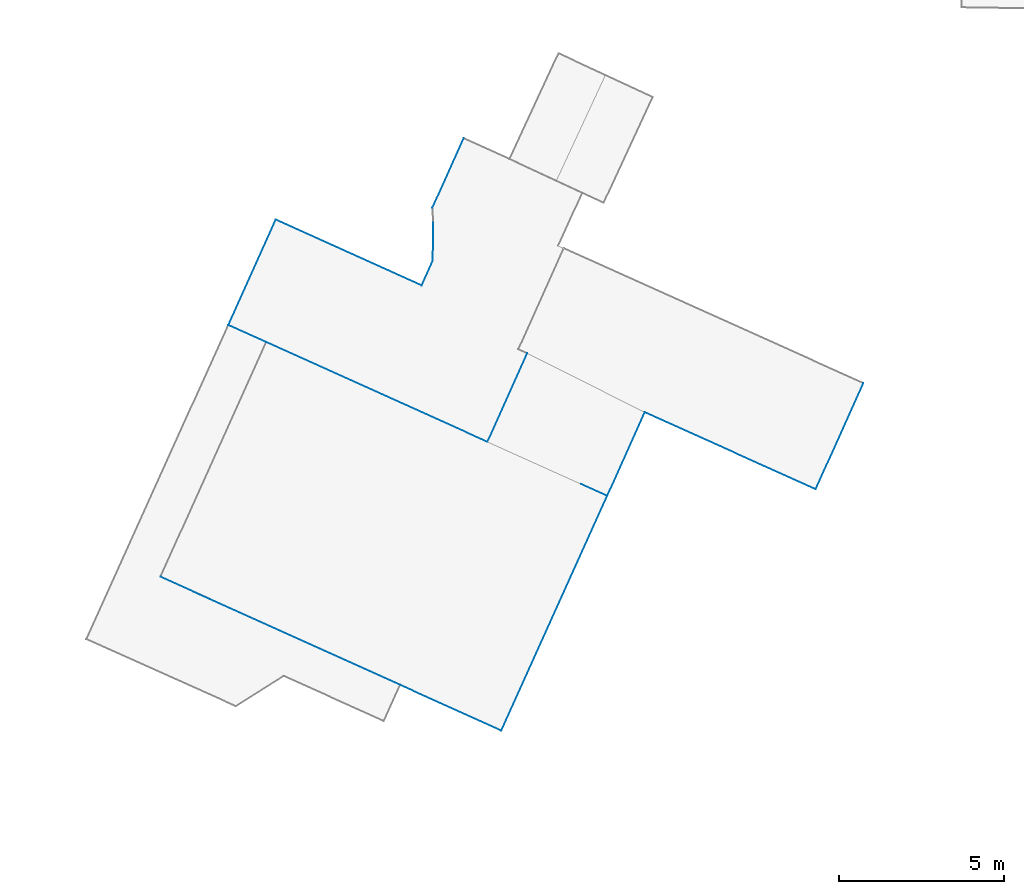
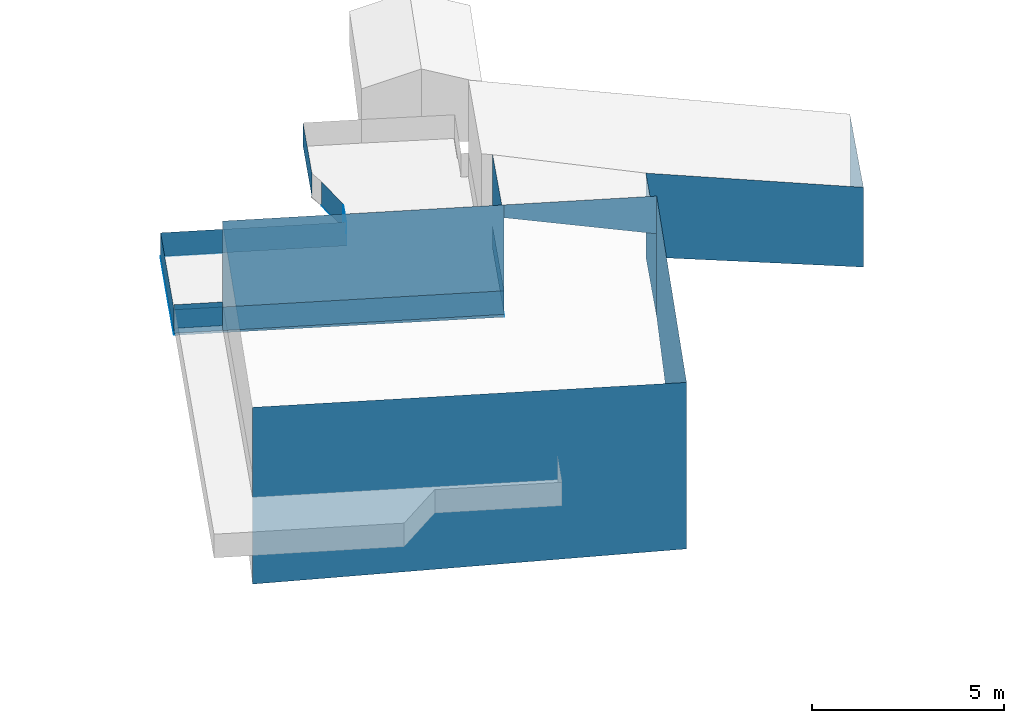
# Not in any storey, part 58 of 136: 32 walls.
"""IFC4 building model written with IfcOpenShell, lengths in metres."""

import ifcopenshell
import ifcopenshell.guid

model = None  # the IFC model being written
_history = None  # IfcOwnerHistory: only IFC2X3 demands one
_inside = {}  # id of a spatial element -> (the spatial element, [elements in it])
_under = {}  # id of a project, library or spatial element -> (it, [spatial elements below it])
_declared = {}  # id of a project -> (the project, [libraries it declares])
_typed = {}  # id of a type object -> (the type object, [elements of that type])
_made_of = {}  # id of a material, layer set ... -> (it, [elements and type objects made of it])


def new_model(schema):
    """Start an empty IFC model of exactly this schema.

    Asked for "IFC4X3", IfcOpenShell would pick the latest addendum, in which some entities
    have other attributes; the version numbers below select the first issue.
    IFC2X3 requires an IfcOwnerHistory on every rooted entity: one is made here for all.
    """
    global model, _history
    if schema == "IFC4X3":
        model = ifcopenshell.file(schema_version=(4, 3, 0, 0))
    else:
        model = ifcopenshell.file(schema=schema)
    _inside.clear()
    _under.clear()
    _declared.clear()
    _typed.clear()
    _made_of.clear()
    _history = None
    if model.schema == "IFC2X3":
        org = make("IfcOrganization", Name="unknown")
        user = make(
            "IfcPersonAndOrganization",
            ThePerson=make("IfcPerson", FamilyName="unknown"),
            TheOrganization=org,
        )
        app = make(
            "IfcApplication",
            ApplicationDeveloper=org,
            Version="unknown",
            ApplicationFullName="unknown",
            ApplicationIdentifier="unknown",
        )
        _history = make(
            "IfcOwnerHistory",
            OwningUser=user,
            OwningApplication=app,
            ChangeAction="ADDED",
            CreationDate=0,
        )
    return model


def make(cls, **values):
    """One entity of the class cls with the attributes given. An attribute that is None is left unset."""
    return model.create_entity(
        cls, **{name: value for name, value in values.items() if value is not None}
    )


def entity(cls, *values):
    """Any entity or typed value of the class cls, its attributes in the order of the schema. None: left unset."""
    e = model.create_entity(cls)
    for i, value in enumerate(values):
        if value is not None:
            e[i] = value
    return e


def rooted(cls, **values):
    """An entity with a GlobalId (a new one), such as an element, a storey or a relation."""
    return make(cls, GlobalId=ifcopenshell.guid.new(), OwnerHistory=_history, **values)


def si_unit(unit_type, name, prefix=None):
    """IfcSIUnit, for example si_unit("LENGTHUNIT", "METRE", prefix="MILLI")."""
    return make("IfcSIUnit", UnitType=unit_type, Prefix=prefix, Name=name)


def converted_unit(unit_type, name, factor, base, dimensions=None, offset=None):
    """IfcConversionBasedUnit, such as the inch: factor (a typed value) times the base unit."""
    return make(
        "IfcConversionBasedUnit"
        if offset is None
        else "IfcConversionBasedUnitWithOffset",
        ConversionOffset=offset,
        Dimensions=None
        if dimensions is None
        else entity("IfcDimensionalExponents", *dimensions),
        UnitType=unit_type,
        Name=name,
        ConversionFactor=make(
            "IfcMeasureWithUnit", ValueComponent=factor, UnitComponent=base
        ),
    )


def assignment(units):
    """IfcUnitAssignment: the units of a project."""
    return None if units is None else make("IfcUnitAssignment", Units=units)


def point(xyz):
    """IfcCartesianPoint."""
    return None if xyz is None else make("IfcCartesianPoint", Coordinates=xyz)


def direction(xyz):
    """IfcDirection."""
    return None if xyz is None else make("IfcDirection", DirectionRatios=xyz)


def frame(location, z_axis=None, x_axis=None):
    """IfcAxis2Placement3D, a coordinate frame: its origin and axes. An axis left out is left unset."""
    return make(
        "IfcAxis2Placement3D",
        Location=point(location),
        Axis=direction(z_axis),
        RefDirection=direction(x_axis),
    )


def origin():
    """The frame at (0, 0, 0) with its axes left unset."""
    return frame((0.0, 0.0, 0.0))


def place(relative_to, where):
    """IfcLocalPlacement: puts the frame where relative to a parent placement (None: the world)."""
    return make(
        "IfcLocalPlacement", PlacementRelTo=relative_to, RelativePlacement=where
    )


def context(
    kind, dimensions, precision=None, world=None, true_north=None, identifier=None
):
    """IfcGeometricRepresentationContext, for example the 3D "Model" context."""
    return make(
        "IfcGeometricRepresentationContext",
        ContextIdentifier=identifier,
        ContextType=kind,
        CoordinateSpaceDimension=dimensions,
        Precision=precision,
        WorldCoordinateSystem=world,
        TrueNorth=true_north,
    )


def subcontext(parent, identifier, kind, view, scale=None):
    """IfcGeometricRepresentationSubContext, for example "Body" below "Model"."""
    return make(
        "IfcGeometricRepresentationSubContext",
        ContextIdentifier=identifier,
        ContextType=kind,
        ParentContext=parent,
        TargetScale=scale,
        TargetView=view,
    )


def project(units=None, contexts=None):
    """IfcProject with its units and contexts."""
    return rooted(
        "IfcProject",
        Name="project",
        RepresentationContexts=contexts,
        UnitsInContext=assignment(units),
    )


def spatial(cls, under=None, at=None, **own):
    """A site, building, storey or space (cls), placed at a placement, below another one or the project."""
    s = rooted(cls, ObjectPlacement=at, **own)
    if under is not None:
        _under.setdefault(under.id(), (under, []))[1].append(s)
    return s


def faces_of(points, faces, orient=None, outer=None):
    """IfcFace entities. A face is a list of loops; a loop is a list of indices into points, from 0.

    orient and outer hold one flag for each loop. By default every Orientation is true, the
    first loop of a face is its IfcFaceOuterBound and the others are IfcFaceBound.
    """
    made = []
    for i, loops in enumerate(faces):
        bounds = []
        for j, loop in enumerate(loops):
            is_outer = j == 0 if outer is None else outer[i][j]
            bounds.append(
                make(
                    "IfcFaceOuterBound" if is_outer else "IfcFaceBound",
                    Bound=make("IfcPolyLoop", Polygon=[points[k] for k in loop]),
                    Orientation=True if orient is None else orient[i][j],
                )
            )
        made.append(make("IfcFace", Bounds=bounds))
    return made


def face_set(faces, orient=None, outer=None):
    """The faces of one IfcConnectedFaceSet. surface_model builds it on its shared points."""
    return ("IfcConnectedFaceSet", faces, orient, outer)


def surface_model(cls, points, shells):
    """IfcFaceBasedSurfaceModel or IfcShellBasedSurfaceModel (cls): surfaces that need not close."""
    shared = [point(p) for p in points]
    made = [make(c, CfsFaces=faces_of(shared, fs, o, b)) for c, fs, o, b in shells]
    if cls == "IfcFaceBasedSurfaceModel":
        return make(cls, FbsmFaces=made)
    return make(cls, SbsmBoundary=made)


def shape(context_of_items, identifier, shape_type, items):
    """IfcShapeRepresentation: the items that make up one representation, for example the "Body"."""
    return make(
        "IfcShapeRepresentation",
        ContextOfItems=context_of_items,
        RepresentationIdentifier=identifier,
        RepresentationType=shape_type,
        Items=items,
    )


def made_of(thing, what):
    """Note that an element or type object is made of a material, layer set ...; save() writes the relation."""
    if what is not None:
        _made_of.setdefault(what.id(), (what, []))[1].append(thing)
    return thing


def element(
    cls,
    number,
    at=None,
    inside=None,
    cuts=None,
    type_object=None,
    material=None,
    context=None,
    identifier="Body",
    shape_type=None,
    held_by="IfcProductDefinitionShape",
    body=None,
    shapes=None,
    **own,
):
    """One element of the class cls, such as IfcWall. Its Tag is "e" and its number.

    at: its placement. inside: the storey or other place that contains it. cuts: it is an
    opening in that element (IfcRelVoidsElement). A single representation is given by context,
    identifier, shape_type and body (its items); several are given by shapes. held_by: the class
    of the entity that holds the representations. save() writes the other relations.
    """
    e = rooted(cls, Tag="e%d" % number, ObjectPlacement=at, **own)
    if body is not None:
        shapes = [shape(context, identifier, shape_type, body)]
    if shapes is not None:
        e.Representation = make(held_by, Representations=shapes)
    if inside is not None:
        _inside.setdefault(inside.id(), (inside, []))[1].append(e)
    if cuts is not None:
        rooted(
            "IfcRelVoidsElement", RelatingBuildingElement=cuts, RelatedOpeningElement=e
        )
    if type_object is not None:
        _typed.setdefault(type_object.id(), (type_object, []))[1].append(e)
    return made_of(e, material)


def aggregate(whole, parts):
    """IfcRelAggregates: a whole, such as a stair, and the parts it consists of."""
    return rooted("IfcRelAggregates", RelatingObject=whole, RelatedObjects=parts)


def save(model, path):
    """Write the relations noted so far, then the file.

    IfcRelAggregates (storeys below a building ...), IfcRelContainedInSpatialStructure (elements
    in a storey), IfcRelDefinesByType, IfcRelAssociatesMaterial and IfcRelDeclares: one each for
    every whole, place, type object, material and project.
    """
    for whole, parts in _under.values():
        aggregate(whole, parts)
    for where, things in _inside.values():
        rooted(
            "IfcRelContainedInSpatialStructure",
            RelatedElements=things,
            RelatingStructure=where,
        )
    for kind, things in _typed.values():
        rooted("IfcRelDefinesByType", RelatedObjects=things, RelatingType=kind)
    for what, things in _made_of.values():
        rooted("IfcRelAssociatesMaterial", RelatedObjects=things, RelatingMaterial=what)
    for by, libraries in _declared.values():
        rooted("IfcRelDeclares", RelatingContext=by, RelatedDefinitions=libraries)
    model.write(path)


model = new_model("IFC4")

# Units and contexts
model_context = context("Model", 3, precision=1e-05, world=origin())
body_context = subcontext(model_context, "Body", "Model", "MODEL_VIEW")
ifc_project = project(units=[converted_unit("PLANEANGLEUNIT", "DEGREE", entity("IfcRatioMeasure", 0.0174532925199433), si_unit("PLANEANGLEUNIT", "RADIAN"), dimensions=[0, 0, 0, 0, 0, 0, 0]), si_unit("AREAUNIT", "SQUARE_METRE"), si_unit("LENGTHUNIT", "METRE")], contexts=[model_context])

# Site, building
site_placement = place(None, origin())
site = spatial("IfcSite", under=ifc_project, at=site_placement, Name="_site")
building_1_placement = place(site_placement, origin())
building_1 = spatial("IfcBuilding", under=site, at=building_1_placement, Name="_building")

# Walls
wall_1_placement = place(building_1_placement, origin())
element("IfcWall", 1, at=wall_1_placement, inside=building_1, Name="Wall", PredefinedType="NOTDEFINED", context=body_context, shape_type="SurfaceModel", body=[
    surface_model("IfcFaceBasedSurfaceModel", [(117.9, 96.53, 43.29), (111.18, 99.561, 43.29), (111.18, 99.561, 43.223), (117.9, 96.53, 43.201)], [face_set([[[0, 1, 2, 3]]])]),
])
wall_2_placement = place(building_1_placement, origin())
element("IfcWall", 2, at=wall_2_placement, inside=building_1, Name="Wall", PredefinedType="NOTDEFINED", context=body_context, shape_type="SurfaceModel", body=[
    surface_model("IfcFaceBasedSurfaceModel", [(116.23, 103.64, 43.29), (117.18, 105.75, 43.29), (117.18, 105.75, 44.04), (116.23, 103.64, 44.04)], [face_set([[[0, 1, 2, 3]]])]),
])
wall_3_placement = place(building_1_placement, origin())
element("IfcWall", 3, at=wall_3_placement, inside=building_1, Name="Wall", PredefinedType="NOTDEFINED", context=body_context, shape_type="SurfaceModel", body=[
    surface_model("IfcFaceBasedSurfaceModel", [(115.9, 101.28, 43.29), (116.24, 102.03, 43.29), (116.24, 102.03, 44.04), (115.9, 101.28, 44.04)], [face_set([[[0, 1, 2, 3]]])]),
])
wall_4_placement = place(building_1_placement, origin())
element("IfcWall", 4, at=wall_4_placement, inside=building_1, Name="Wall", PredefinedType="NOTDEFINED", context=body_context, shape_type="SurfaceModel", body=[
    surface_model("IfcFaceBasedSurfaceModel", [(111.18, 99.561, 43.29), (110.03, 100.08, 43.29), (110.03, 100.08, 44.04), (111.18, 99.561, 44.04)], [face_set([[[0, 1, 2, 3]]])]),
])
wall_5_placement = place(building_1_placement, origin())
element("IfcWall", 5, at=wall_5_placement, inside=building_1, Name="Wall", PredefinedType="NOTDEFINED", context=body_context, shape_type="SurfaceModel", body=[
    surface_model("IfcFaceBasedSurfaceModel", [(117.9, 96.53, 46.36), (119.11, 99.22, 46.31), (119.11, 99.22, 43.201), (117.9, 96.53, 43.201)], [face_set([[[0, 1, 2, 3]]])]),
])
wall_6_placement = place(building_1_placement, origin())
element("IfcWall", 6, at=wall_6_placement, inside=building_1, Name="Wall", PredefinedType="NOTDEFINED", context=body_context, shape_type="SurfaceModel", body=[
    surface_model("IfcFaceBasedSurfaceModel", [(116.23, 103.64, 43.29), (117.18, 105.75, 43.29), (117.18, 105.75, 44.04), (116.23, 103.64, 44.04)], [face_set([[[0, 1, 2, 3]]])]),
])
wall_7_placement = place(building_1_placement, origin())
element("IfcWall", 7, at=wall_7_placement, inside=building_1, Name="Wall", PredefinedType="NOTDEFINED", context=body_context, shape_type="SurfaceModel", body=[
    surface_model("IfcFaceBasedSurfaceModel", [(121.54, 94.89, 46.77), (118.32, 87.76, 46.3), (118.32, 87.76, 41.008), (121.54, 94.89, 42.919)], [face_set([[[0, 1, 2, 3]]])]),
])
wall_8_placement = place(building_1_placement, origin())
element("IfcWall", 8, at=wall_8_placement, inside=building_1, Name="Wall", PredefinedType="NOTDEFINED", context=body_context, shape_type="SurfaceModel", body=[
    surface_model("IfcFaceBasedSurfaceModel", [(110.03, 100.08, 43.45), (111.18, 99.561, 43.45), (111.18, 99.561, 44.2), (110.03, 100.08, 44.2)], [face_set([[[0, 1, 2, 3]]])]),
])
wall_9_placement = place(building_1_placement, origin())
element("IfcWall", 9, at=wall_9_placement, inside=building_1, Name="Wall", PredefinedType="NOTDEFINED", context=body_context, shape_type="SurfaceModel", body=[
    surface_model("IfcFaceBasedSurfaceModel", [(116.24, 102.03, 43.29), (116.26, 103.19, 43.29), (116.26, 103.19, 44.04), (116.24, 102.03, 44.04)], [face_set([[[0, 1, 2, 3]]])]),
])
wall_10_placement = place(building_1_placement, origin())
element("IfcWall", 10, at=wall_10_placement, inside=building_1, Name="Wall", PredefinedType="NOTDEFINED", context=body_context, shape_type="SurfaceModel", body=[
    surface_model("IfcFaceBasedSurfaceModel", [(110.03, 100.08, 43.29), (111.47, 103.28, 43.29), (111.47, 103.28, 43.286), (110.03, 100.08, 43.223)], [face_set([[[0, 1, 2, 3]]])]),
])
wall_11_placement = place(building_1_placement, origin())
element("IfcWall", 11, at=wall_11_placement, inside=building_1, Name="Wall", PredefinedType="NOTDEFINED", context=body_context, shape_type="SurfaceModel", body=[
    surface_model("IfcFaceBasedSurfaceModel", [(111.47, 103.28, 43.29), (115.9, 101.28, 43.29), (115.9, 101.28, 44.04), (111.47, 103.28, 44.04)], [face_set([[[0, 1, 2, 3]]])]),
])
wall_12_placement = place(building_1_placement, origin())
element("IfcWall", 12, at=wall_12_placement, inside=building_1, Name="Wall", PredefinedType="NOTDEFINED", context=body_context, shape_type="SurfaceModel", body=[
    surface_model("IfcFaceBasedSurfaceModel", [(117.9, 96.53, 46.77), (121.54, 94.89, 46.77), (121.54, 94.89, 45.57), (117.9, 96.53, 46.36)], [face_set([[[0, 1, 2, 3]]])]),
])
wall_13_placement = place(building_1_placement, origin())
element("IfcWall", 13, at=wall_13_placement, inside=building_1, Name="Wall", PredefinedType="NOTDEFINED", context=body_context, shape_type="SurfaceModel", body=[
    surface_model("IfcFaceBasedSurfaceModel", [(116.24, 102.03, 43.29), (116.26, 103.19, 43.29), (116.26, 103.19, 43.284), (116.24, 102.03, 43.284)], [face_set([[[0, 1, 2, 3]]])]),
])
wall_14_placement = place(building_1_placement, origin())
element("IfcWall", 14, at=wall_14_placement, inside=building_1, Name="Wall", PredefinedType="NOTDEFINED", context=body_context, shape_type="SurfaceModel", body=[
    surface_model("IfcFaceBasedSurfaceModel", [(115.9, 101.28, 43.29), (116.24, 102.03, 43.29), (116.24, 102.03, 44.04), (115.9, 101.28, 44.04)], [face_set([[[0, 1, 2, 3]]])]),
])
wall_15_placement = place(building_1_placement, origin())
element("IfcWall", 15, at=wall_15_placement, inside=building_1, Name="Wall", PredefinedType="NOTDEFINED", context=body_context, shape_type="SurfaceModel", body=[
    surface_model("IfcFaceBasedSurfaceModel", [(118.32, 87.76, 46.3), (107.97, 92.43, 46.3), (107.97, 92.43, 40.681), (118.32, 87.76, 41.008)], [face_set([[[0, 1, 2, 3]]])]),
])
wall_16_placement = place(building_1_placement, origin())
element("IfcWall", 16, at=wall_16_placement, inside=building_1, Name="Wall", PredefinedType="NOTDEFINED", context=body_context, shape_type="SurfaceModel", body=[
    surface_model("IfcFaceBasedSurfaceModel", [(110.03, 100.08, 43.29), (111.47, 103.28, 43.29), (111.47, 103.28, 44.04), (110.03, 100.08, 44.04)], [face_set([[[0, 1, 2, 3]]])]),
])
wall_17_placement = place(building_1_placement, origin())
element("IfcWall", 17, at=wall_17_placement, inside=building_1, Name="Wall", PredefinedType="NOTDEFINED", context=body_context, shape_type="SurfaceModel", body=[
    surface_model("IfcFaceBasedSurfaceModel", [(122.68, 97.43, 45.56), (121.54, 94.89, 45.57), (121.54, 94.89, 42.919), (122.68, 97.43, 42.896)], [face_set([[[0, 1, 2, 3]]])]),
])
wall_18_placement = place(building_1_placement, origin())
element("IfcWall", 18, at=wall_18_placement, inside=building_1, Name="Wall", PredefinedType="NOTDEFINED", context=body_context, shape_type="SurfaceModel", body=[
    surface_model("IfcFaceBasedSurfaceModel", [(116.24, 102.03, 43.29), (116.26, 103.19, 43.29), (116.26, 103.19, 44.04), (116.24, 102.03, 44.04)], [face_set([[[0, 1, 2, 3]]])]),
])
wall_19_placement = place(building_1_placement, origin())
element("IfcWall", 19, at=wall_19_placement, inside=building_1, Name="Wall", PredefinedType="NOTDEFINED", context=body_context, shape_type="SurfaceModel", body=[
    surface_model("IfcFaceBasedSurfaceModel", [(111.18, 99.561, 43.29), (110.03, 100.08, 43.29), (110.03, 100.08, 44.04), (111.18, 99.561, 44.04)], [face_set([[[0, 1, 2, 3]]])]),
])
wall_20_placement = place(building_1_placement, origin())
element("IfcWall", 20, at=wall_20_placement, inside=building_1, Name="Wall", PredefinedType="NOTDEFINED", context=body_context, shape_type="SurfaceModel", body=[
    surface_model("IfcFaceBasedSurfaceModel", [(119.11, 99.22, 43.29), (117.9, 96.53, 43.29), (117.9, 96.53, 43.201), (119.11, 99.22, 43.201)], [face_set([[[0, 1, 2, 3]]])]),
])
wall_21_placement = place(building_1_placement, origin())
element("IfcWall", 21, at=wall_21_placement, inside=building_1, Name="Wall", PredefinedType="NOTDEFINED", context=body_context, shape_type="SurfaceModel", body=[
    surface_model("IfcFaceBasedSurfaceModel", [(111.18, 99.561, 43.29), (110.03, 100.08, 43.29), (110.03, 100.08, 43.223), (111.18, 99.561, 43.223)], [face_set([[[0, 1, 2, 3]]])]),
])
wall_22_placement = place(building_1_placement, origin())
element("IfcWall", 22, at=wall_22_placement, inside=building_1, Name="Wall", PredefinedType="NOTDEFINED", context=body_context, shape_type="SurfaceModel", body=[
    surface_model("IfcFaceBasedSurfaceModel", [(110.03, 100.08, 43.45), (111.18, 99.561, 43.45), (111.18, 99.561, 44.2), (110.03, 100.08, 44.2)], [face_set([[[0, 1, 2, 3]]])]),
])
wall_23_placement = place(building_1_placement, origin())
element("IfcWall", 23, at=wall_23_placement, inside=building_1, Name="Wall", PredefinedType="NOTDEFINED", context=body_context, shape_type="SurfaceModel", body=[
    surface_model("IfcFaceBasedSurfaceModel", [(117.9, 96.53, 43.29), (111.18, 99.561, 43.29), (111.18, 99.561, 44.04), (117.9, 96.53, 44.04)], [face_set([[[0, 1, 2, 3]]])]),
])
wall_24_placement = place(building_1_placement, origin())
element("IfcWall", 24, at=wall_24_placement, inside=building_1, Name="Wall", PredefinedType="NOTDEFINED", context=body_context, shape_type="SurfaceModel", body=[
    surface_model("IfcFaceBasedSurfaceModel", [(111.18, 99.561, 46.77), (117.9, 96.53, 46.77), (117.9, 96.53, 43.201), (111.18, 99.561, 43.223)], [face_set([[[0, 1, 2, 3]]])]),
])
wall_25_placement = place(building_1_placement, origin())
element("IfcWall", 25, at=wall_25_placement, inside=building_1, Name="Wall", PredefinedType="NOTDEFINED", context=body_context, shape_type="SurfaceModel", body=[
    surface_model("IfcFaceBasedSurfaceModel", [(111.47, 103.28, 43.29), (115.9, 101.28, 43.29), (115.9, 101.28, 43.282), (111.47, 103.28, 43.286)], [face_set([[[0, 1, 2, 3]]])]),
])
wall_26_placement = place(building_1_placement, origin())
element("IfcWall", 26, at=wall_26_placement, inside=building_1, Name="Wall", PredefinedType="NOTDEFINED", context=body_context, shape_type="SurfaceModel", body=[
    surface_model("IfcFaceBasedSurfaceModel", [(119.11, 99.22, 43.29), (117.9, 96.53, 43.29), (117.9, 96.53, 44.04), (119.11, 99.22, 44.04)], [face_set([[[0, 1, 2, 3]]])]),
])
wall_27_placement = place(building_1_placement, origin())
element("IfcWall", 27, at=wall_27_placement, inside=building_1, Name="Wall", PredefinedType="NOTDEFINED", context=body_context, shape_type="SurfaceModel", body=[
    surface_model("IfcFaceBasedSurfaceModel", [(111.47, 103.28, 43.29), (115.9, 101.28, 43.29), (115.9, 101.28, 44.04), (111.47, 103.28, 44.04)], [face_set([[[0, 1, 2, 3]]])]),
])
wall_28_placement = place(building_1_placement, origin())
element("IfcWall", 28, at=wall_28_placement, inside=building_1, Name="Wall", PredefinedType="NOTDEFINED", context=body_context, shape_type="SurfaceModel", body=[
    surface_model("IfcFaceBasedSurfaceModel", [(117.9, 96.53, 43.29), (111.18, 99.561, 43.29), (111.18, 99.561, 44.04), (117.9, 96.53, 44.04)], [face_set([[[0, 1, 2, 3]]])]),
])
wall_29_placement = place(building_1_placement, origin())
element("IfcWall", 29, at=wall_29_placement, inside=building_1, Name="Wall", PredefinedType="NOTDEFINED", context=body_context, shape_type="SurfaceModel", body=[
    surface_model("IfcFaceBasedSurfaceModel", [(110.03, 100.08, 43.29), (111.47, 103.28, 43.29), (111.47, 103.28, 44.04), (110.03, 100.08, 44.04)], [face_set([[[0, 1, 2, 3]]])]),
])
wall_30_placement = place(building_1_placement, origin())
element("IfcWall", 30, at=wall_30_placement, inside=building_1, Name="Wall", PredefinedType="NOTDEFINED", context=body_context, shape_type="SurfaceModel", body=[
    surface_model("IfcFaceBasedSurfaceModel", [(119.11, 99.22, 43.29), (117.9, 96.53, 43.29), (117.9, 96.53, 44.04), (119.11, 99.22, 44.04)], [face_set([[[0, 1, 2, 3]]])]),
])

# Building
building_2_placement = place(site_placement, origin())
building_2 = spatial("IfcBuilding", under=site, at=building_2_placement, Name="_building")

# Walls
wall_31_placement = place(building_2_placement, origin())
element("IfcWall", 31, at=wall_31_placement, inside=building_2, Name="Wall", PredefinedType="NOTDEFINED", context=body_context, shape_type="SurfaceModel", body=[
    surface_model("IfcFaceBasedSurfaceModel", [(129.32, 98.311, 44.58), (127.87, 95.09, 44.71), (127.87, 95.09, 42.176), (129.32, 98.311, 42.123)], [face_set([[[0, 1, 2, 3]]])]),
])
wall_32_placement = place(building_2_placement, origin())
element("IfcWall", 32, at=wall_32_placement, inside=building_2, Name="Wall", PredefinedType="NOTDEFINED", context=body_context, shape_type="SurfaceModel", body=[
    surface_model("IfcFaceBasedSurfaceModel", [(127.87, 95.09, 44.71), (122.68, 97.43, 45.56), (122.68, 97.43, 42.896), (127.87, 95.09, 42.176)], [face_set([[[0, 1, 2, 3]]])]),
])

save(model, "model.ifc")
